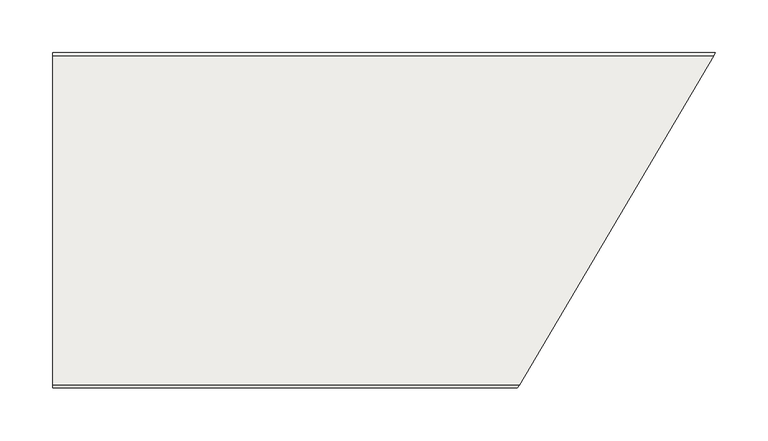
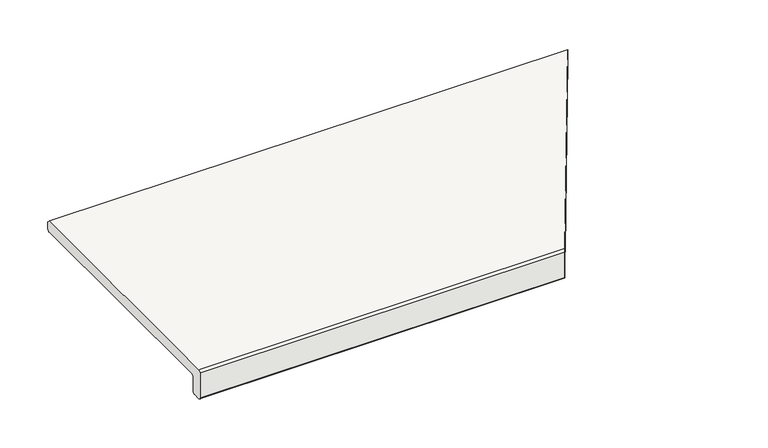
"""IFC4 building model written with IfcOpenShell, lengths in millimetres: slab geometry, ROSA GRES_L62 (corte) : Pieza L62_Serena_Ocra_Anti-Slip."""

from ifc_helpers import new_model, si_unit, frame, origin, place, context, project, spatial, polyline, circle_curve, ellipse_curve, source, transform, mapped, element, save
from ifc_brep_helpers import plane_surface, cylinder_surface, revolved_surface, advanced_brep


def slab_92a56c09(model_context):
    return source(origin(), model_context, "Body", "AdvancedBrep", [
        advanced_brep(
        [(0.0, 0.0, -20.5), (0.0, 0.0, 11.5), (0.0, 2.5, 14.0), (0.0, 314.5, 14.0), (0.0, 317.0, 11.5), (0.0, 317.0, 2.5), (0.0, 314.5, 0.0), (0.0, 16.5, 0.0), (0.0, 14.0, -2.5), (0.0, 14.0, -20.5), (0.0, 11.5, -23.0), (0.0, 2.5, -23.0), (438.9782073, 0.0, 11.5), (440.4508198, 2.5, 14.0), (624.232865, 314.5, 14.0), (625.7054775, 317.0, 11.5), (445.752225, 11.5, -23.0), (440.4508198, 2.5, -23.0), (625.7054775, 317.0, 2.5), (624.232865, 314.5, 0.0), (438.9782073, 0.0, -20.5), (447.2248375, 14.0, -20.5), (448.6974501, 16.5, 0.0), (447.2248375, 14.0, -2.5)],
        [
            (0, 1),
            (1, 2),
            (2, 3),
            (3, 4),
            (4, 5),
            (5, 6, circle_curve(frame((0.0, 314.5, 2.5), z_axis=(-1.0, 0.0, 0.0), x_axis=(0.0, 0.0, -1.0)), 2.5)),
            (6, 7),
            (7, 8, circle_curve(frame((0.0, 16.5, -2.5), z_axis=(1.0, 0.0, 0.0), x_axis=(0.0, 0.0, -1.0)), 2.5)),
            (8, 9),
            (9, 10, circle_curve(frame((0.0, 11.5, -20.5), z_axis=(-1.0, 0.0, 0.0), x_axis=(0.0, 0.0, -1.0)), 2.5)),
            (10, 11),
            (11, 0, circle_curve(frame((0.0, 2.5, -20.5), z_axis=(-1.0, 0.0, 0.0), x_axis=(0.0, 0.0, -1.0)), 2.5)),
            (1, 12),
            (12, 13),
            (13, 2),
            (3, 14),
            (14, 15),
            (15, 4),
            (10, 16),
            (16, 17),
            (17, 11),
            (5, 18),
            (18, 19, ellipse_curve(frame((624.232865, 314.5, 2.5), z_axis=(-0.8616291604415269, 0.5075383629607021, 0.0), x_axis=(-0.5075383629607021, -0.8616291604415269, 0.0)), 2.9014803, 2.5)),
            (19, 6),
            (15, 18),
            (0, 20),
            (20, 12),
            (17, 20, ellipse_curve(frame((440.4508198, 2.5, -20.5), z_axis=(-0.8616291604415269, 0.5075383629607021, 0.0), x_axis=(-0.5075383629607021, -0.8616291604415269, 0.0)), 2.9014803, 2.5)),
            (9, 21),
            (21, 16, ellipse_curve(frame((445.752225, 11.5, -20.5), z_axis=(-0.8616291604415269, 0.5075383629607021, 0.0), x_axis=(-0.5075383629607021, -0.8616291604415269, 0.0)), 2.9014803, 2.5)),
            (13, 14),
            (19, 22),
            (22, 7),
            (22, 23, ellipse_curve(frame((448.6974501, 16.5, -2.5), z_axis=(0.8616291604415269, -0.5075383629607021, 0.0), x_axis=(0.5075383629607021, 0.8616291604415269, 0.0)), 2.9014803, 2.5)),
            (23, 8),
            (23, 21),
        ],
        [
            plane_surface(frame((0.0, 0.0, 0.0), z_axis=(-1.0, 0.0, 0.0), x_axis=(0.0, 0.0, 1.0))),
            plane_surface(frame((0.0, 0.0, 11.5), z_axis=(0.0, -0.707106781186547, 0.7071067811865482), x_axis=(1.0, 0.0, 0.0))),
            plane_surface(frame((0.0, 314.5, 14.0), z_axis=(0.0, 0.707106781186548, 0.707106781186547), x_axis=(1.0, 0.0, 0.0))),
            plane_surface(frame((0.0, 11.5, -23.0), z_axis=(0.0, 0.0, -1.0), x_axis=(1.0, 0.0, 0.0))),
            cylinder_surface(frame((0.0, 314.5, 2.5), z_axis=(-1.0, 0.0, 0.0), x_axis=(0.0, 0.0, -1.0)), 2.5),
            plane_surface(frame((0.0, 317.0, 11.5), z_axis=(0.0, 1.0, 0.0), x_axis=(1.0, 0.0, 0.0))),
            plane_surface(frame((0.0, 0.0, -20.5), z_axis=(0.0, -1.0, 0.0), x_axis=(1.0, 0.0, 0.0))),
            cylinder_surface(frame((0.0, 2.5, -20.5), z_axis=(-1.0, 0.0, 0.0), x_axis=(0.0, 0.0, -1.0)), 2.5),
            cylinder_surface(frame((0.0, 11.5, -20.5), z_axis=(-1.0, 0.0, 0.0), x_axis=(0.0, 0.0, -1.0)), 2.5),
            plane_surface(frame((0.0, 2.5, 14.0), z_axis=(0.0, 0.0, 1.0), x_axis=(1.0, 0.0, 0.0))),
            plane_surface(frame((0.0, 314.5, 0.0), z_axis=(0.0, 0.0, -1.0), x_axis=(1.0, 0.0, 0.0))),
            revolved_surface(polyline([(450.17006266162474, 16.5, -5.0), (0.0, 16.5, -5.0)]), (0.0, 16.5, -2.5), (1.0, 0.0, 0.0)),
            plane_surface(frame((0.0, 14.0, -2.5), z_axis=(0.0, 1.0, 0.0), x_axis=(1.0, 0.0, 0.0))),
            plane_surface(frame((626.0, 317.5, 86.9871832), z_axis=(0.8616291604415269, -0.5075383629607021, 0.0), x_axis=(0.0, 0.0, -1.0))),
        ],
        [
            (0, [[1, 2, 3, 4, 5, 6, 7, 8, 9, 10, 11, 12]]),
            (1, [[-2, 13, 14, 15]]),
            (2, [[-4, 16, 17, 18]]),
            (3, [[-11, 19, 20, 21]]),
            (4, [[-6, 22, 23, 24]]),
            (5, [[-5, -18, 25, -22]]),
            (6, [[-1, 26, 27, -13]]),
            (7, [[-12, -21, 28, -26]]),
            (8, [[-10, 29, 30, -19]]),
            (9, [[-3, -15, 31, -16]]),
            (10, [[-7, -24, 32, 33]]),
            (11, [[-8, -33, 34, 35]]),
            (12, [[-9, -35, 36, -29]]),
            (13, [[-27, -28, -20, -30, -36, -34, -32, -23, -25, -17, -31, -14]]),
        ],
    ),
    ])


if __name__ == "__main__":
    model = new_model("IFC4")
    model_context = context("Model", 3, world=origin())
    ifc_project = project(units=[si_unit("LENGTHUNIT", "METRE", prefix="MILLI")], contexts=[model_context])
    site = spatial("IfcSite", under=ifc_project)
    building = spatial("IfcBuilding", under=site)
    placement = place(None, origin())
    slab_shape = slab_92a56c09(model_context)
    element("IfcSlab", 1, ObjectType="ROSA GRES_L62 (corte) : Pieza L62_Serena_Ocra_Anti-Slip", at=placement, inside=building, context=model_context, shape_type="MappedRepresentation", body=[
        mapped(slab_shape, transform((0.0, 0.0, 0.0), x_axis=(1.0, 0.0, 0.0), y_axis=(0.0, 1.0, 0.0), z_axis=(0.0, 0.0, 1.0))),
    ])
    save(model, "model.ifc")
